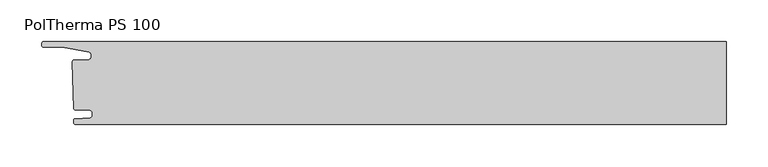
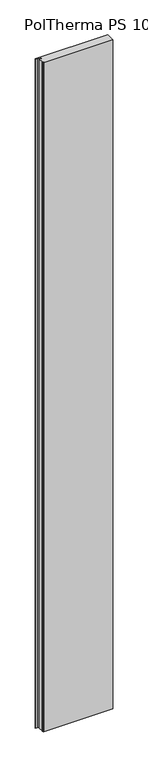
"""IFC4 building model written with IfcOpenShell, lengths in millimetres: plate geometry, Europanels_Poltherma PS_Vt : PolTherma PS 100."""

import ifcopenshell
import ifcopenshell.guid

model = None  # the IFC model being written
_history = None  # IfcOwnerHistory: only IFC2X3 demands one
_inside = {}  # id of a spatial element -> (the spatial element, [elements in it])
_under = {}  # id of a project, library or spatial element -> (it, [spatial elements below it])
_declared = {}  # id of a project -> (the project, [libraries it declares])
_typed = {}  # id of a type object -> (the type object, [elements of that type])
_made_of = {}  # id of a material, layer set ... -> (it, [elements and type objects made of it])


def new_model(schema):
    """Start an empty IFC model of exactly this schema.

    Asked for "IFC4X3", IfcOpenShell would pick the latest addendum, in which some entities
    have other attributes; the version numbers below select the first issue.
    IFC2X3 requires an IfcOwnerHistory on every rooted entity: one is made here for all.
    """
    global model, _history
    if schema == "IFC4X3":
        model = ifcopenshell.file(schema_version=(4, 3, 0, 0))
    else:
        model = ifcopenshell.file(schema=schema)
    _inside.clear()
    _under.clear()
    _declared.clear()
    _typed.clear()
    _made_of.clear()
    _history = None
    if model.schema == "IFC2X3":
        org = make("IfcOrganization", Name="unknown")
        user = make(
            "IfcPersonAndOrganization",
            ThePerson=make("IfcPerson", FamilyName="unknown"),
            TheOrganization=org,
        )
        app = make(
            "IfcApplication",
            ApplicationDeveloper=org,
            Version="unknown",
            ApplicationFullName="unknown",
            ApplicationIdentifier="unknown",
        )
        _history = make(
            "IfcOwnerHistory",
            OwningUser=user,
            OwningApplication=app,
            ChangeAction="ADDED",
            CreationDate=0,
        )
    return model


def make(cls, **values):
    """One entity of the class cls with the attributes given. An attribute that is None is left unset."""
    return model.create_entity(
        cls, **{name: value for name, value in values.items() if value is not None}
    )


def rooted(cls, **values):
    """An entity with a GlobalId (a new one), such as an element, a storey or a relation."""
    return make(cls, GlobalId=ifcopenshell.guid.new(), OwnerHistory=_history, **values)


def si_unit(unit_type, name, prefix=None):
    """IfcSIUnit, for example si_unit("LENGTHUNIT", "METRE", prefix="MILLI")."""
    return make("IfcSIUnit", UnitType=unit_type, Prefix=prefix, Name=name)


def assignment(units):
    """IfcUnitAssignment: the units of a project."""
    return None if units is None else make("IfcUnitAssignment", Units=units)


def point(xyz):
    """IfcCartesianPoint."""
    return None if xyz is None else make("IfcCartesianPoint", Coordinates=xyz)


def direction(xyz):
    """IfcDirection."""
    return None if xyz is None else make("IfcDirection", DirectionRatios=xyz)


def frame(location, z_axis=None, x_axis=None):
    """IfcAxis2Placement3D, a coordinate frame: its origin and axes. An axis left out is left unset."""
    return make(
        "IfcAxis2Placement3D",
        Location=point(location),
        Axis=direction(z_axis),
        RefDirection=direction(x_axis),
    )


def origin():
    """The frame at (0, 0, 0) with its axes left unset."""
    return frame((0.0, 0.0, 0.0))


def place(relative_to, where):
    """IfcLocalPlacement: puts the frame where relative to a parent placement (None: the world)."""
    return make(
        "IfcLocalPlacement", PlacementRelTo=relative_to, RelativePlacement=where
    )


def context(
    kind, dimensions, precision=None, world=None, true_north=None, identifier=None
):
    """IfcGeometricRepresentationContext, for example the 3D "Model" context."""
    return make(
        "IfcGeometricRepresentationContext",
        ContextIdentifier=identifier,
        ContextType=kind,
        CoordinateSpaceDimension=dimensions,
        Precision=precision,
        WorldCoordinateSystem=world,
        TrueNorth=true_north,
    )


def project(units=None, contexts=None):
    """IfcProject with its units and contexts."""
    return rooted(
        "IfcProject",
        Name="project",
        RepresentationContexts=contexts,
        UnitsInContext=assignment(units),
    )


def spatial(cls, under=None, at=None, **own):
    """A site, building, storey or space (cls), placed at a placement, below another one or the project."""
    s = rooted(cls, ObjectPlacement=at, **own)
    if under is not None:
        _under.setdefault(under.id(), (under, []))[1].append(s)
    return s


def polyline(points):
    """IfcPolyline through the points."""
    return make("IfcPolyline", Points=[point(p) for p in points])


def circle_curve(where, radius):
    """IfcCircle in the frame where."""
    return make("IfcCircle", Position=where, Radius=radius)


def shape(context_of_items, identifier, shape_type, items):
    """IfcShapeRepresentation: the items that make up one representation, for example the "Body"."""
    return make(
        "IfcShapeRepresentation",
        ContextOfItems=context_of_items,
        RepresentationIdentifier=identifier,
        RepresentationType=shape_type,
        Items=items,
    )


def source(mapping_origin, context_of_items, identifier, shape_type, items):
    """IfcRepresentationMap: a shape defined once, which mapped items show again and again."""
    return make(
        "IfcRepresentationMap",
        MappingOrigin=mapping_origin,
        MappedRepresentation=shape(context_of_items, identifier, shape_type, items),
    )


def transform(
    local_origin,
    x_axis=None,
    y_axis=None,
    z_axis=None,
    scale=None,
    scale2=None,
    scale3=None,
    uniform=True,
):
    """IfcCartesianTransformationOperator3D, or its non-uniform kind. x_axis, y_axis, z_axis: its Axis1, 2, 3."""
    if uniform:
        return make(
            "IfcCartesianTransformationOperator3D",
            Axis1=direction(x_axis),
            Axis2=direction(y_axis),
            LocalOrigin=point(local_origin),
            Scale=scale,
            Axis3=direction(z_axis),
        )
    return make(
        "IfcCartesianTransformationOperator3DnonUniform",
        Axis1=direction(x_axis),
        Axis2=direction(y_axis),
        LocalOrigin=point(local_origin),
        Scale=scale,
        Axis3=direction(z_axis),
        Scale2=scale2,
        Scale3=scale3,
    )


def mapped(mapping_source, mapping_target):
    """IfcMappedItem: shows the shape of a source again, moved by a transform."""
    return make(
        "IfcMappedItem", MappingSource=mapping_source, MappingTarget=mapping_target
    )


def made_of(thing, what):
    """Note that an element or type object is made of a material, layer set ...; save() writes the relation."""
    if what is not None:
        _made_of.setdefault(what.id(), (what, []))[1].append(thing)
    return thing


def element(
    cls,
    number,
    at=None,
    inside=None,
    cuts=None,
    type_object=None,
    material=None,
    context=None,
    identifier="Body",
    shape_type=None,
    held_by="IfcProductDefinitionShape",
    body=None,
    shapes=None,
    **own,
):
    """One element of the class cls, such as IfcWall. Its Tag is "e" and its number.

    at: its placement. inside: the storey or other place that contains it. cuts: it is an
    opening in that element (IfcRelVoidsElement). A single representation is given by context,
    identifier, shape_type and body (its items); several are given by shapes. held_by: the class
    of the entity that holds the representations. save() writes the other relations.
    """
    e = rooted(cls, Tag="e%d" % number, ObjectPlacement=at, **own)
    if body is not None:
        shapes = [shape(context, identifier, shape_type, body)]
    if shapes is not None:
        e.Representation = make(held_by, Representations=shapes)
    if inside is not None:
        _inside.setdefault(inside.id(), (inside, []))[1].append(e)
    if cuts is not None:
        rooted(
            "IfcRelVoidsElement", RelatingBuildingElement=cuts, RelatedOpeningElement=e
        )
    if type_object is not None:
        _typed.setdefault(type_object.id(), (type_object, []))[1].append(e)
    return made_of(e, material)


def aggregate(whole, parts):
    """IfcRelAggregates: a whole, such as a stair, and the parts it consists of."""
    return rooted("IfcRelAggregates", RelatingObject=whole, RelatedObjects=parts)


def save(model, path):
    """Write the relations noted so far, then the file.

    IfcRelAggregates (storeys below a building ...), IfcRelContainedInSpatialStructure (elements
    in a storey), IfcRelDefinesByType, IfcRelAssociatesMaterial and IfcRelDeclares: one each for
    every whole, place, type object, material and project.
    """
    for whole, parts in _under.values():
        aggregate(whole, parts)
    for where, things in _inside.values():
        rooted(
            "IfcRelContainedInSpatialStructure",
            RelatedElements=things,
            RelatingStructure=where,
        )
    for kind, things in _typed.values():
        rooted("IfcRelDefinesByType", RelatedObjects=things, RelatingType=kind)
    for what, things in _made_of.values():
        rooted("IfcRelAssociatesMaterial", RelatedObjects=things, RelatingMaterial=what)
    for by, libraries in _declared.values():
        rooted("IfcRelDeclares", RelatingContext=by, RelatedDefinitions=libraries)
    model.write(path)


def plane_surface(at):
    """IfcPlane: the flat surface through the origin of the frame at, square to its z axis."""
    return make("IfcPlane", Position=at)


def cylinder_surface(at, radius):
    """IfcCylindricalSurface: all points at the distance radius from the z axis of the frame at."""
    return make("IfcCylindricalSurface", Position=at, Radius=radius)


def revolved_surface(curve, axis_point, axis_direction):
    """IfcSurfaceOfRevolution: the curve turned about the line through axis_point along axis_direction."""
    return make(
        "IfcSurfaceOfRevolution",
        SweptCurve=make("IfcArbitraryOpenProfileDef", ProfileType="CURVE", Curve=curve),
        AxisPosition=make("IfcAxis1Placement", Location=point(axis_point), Axis=direction(axis_direction)),
    )


def advanced_brep(points, edges, surfaces, faces):
    """IfcAdvancedBrep: a solid bounded by faces that lie on surfaces and meet in shared edges.

    An edge is (start, end): straight between two places in points (the first is 0);
    or (start, end, curve); or (start, end, curve, False) where it runs against its curve.
    A face is (place in surfaces, loops), or (place, loops, False) where it looks against
    its surface's normal. A loop lists edges by number (the first is 1), with a minus sign
    where the edge is run from its end to its start. The first loop is the outer one.
    """
    corners = [point(p) for p in points]
    vertices = [make("IfcVertexPoint", VertexGeometry=c) for c in corners]
    made = []
    for start, end, *more in edges:
        made.append(
            make(
                "IfcEdgeCurve",
                EdgeStart=vertices[start],
                EdgeEnd=vertices[end],
                EdgeGeometry=more[0] if more else make("IfcPolyline", Points=[corners[start], corners[end]]),
                SameSense=more[1] if len(more) > 1 else True,
            )
        )
    hull = []
    for where, loops, *sense in faces:
        bounds = []
        for j, loop in enumerate(loops):
            ring = [make("IfcOrientedEdge", EdgeElement=made[abs(k) - 1], Orientation=k > 0) for k in loop]
            bounds.append(
                make(
                    "IfcFaceOuterBound" if j == 0 else "IfcFaceBound",
                    Bound=make("IfcEdgeLoop", EdgeList=ring),
                    Orientation=True,
                )
            )
        hull.append(make("IfcAdvancedFace", Bounds=bounds, FaceSurface=surfaces[where], SameSense=sense[0] if sense else True))
    return make("IfcAdvancedBrep", Outer=make("IfcClosedShell", CfsFaces=hull))


def poltherma_ps_100_62ddb752(model_context):
    return source(origin(), model_context, "Body", "AdvancedBrep", [
        advanced_brep(
        [(412.5, 50.0, 8000.0), (-408.8088808, 50.0, 8000.0), (-410.92762, 48.2152999, 8000.0), (-411.3414131, 45.8152999, 8000.0), (-409.2226739, 43.3, 8000.0), (-386.5443331, 43.3, 8000.0), (-353.9076538, 36.9690493, 8000.0), (-351.7623009, 34.3675437, 8000.0), (-351.7623009, 30.9832499, 8000.0), (-354.2261335, 28.3397973, 8000.0), (-372.0026646, 27.6798185, 8000.0), (-374.2654776, 25.3314364, 8000.0), (-372.7654776, -30.5974015, 8000.0), (-371.2018688, -32.337447, 8000.0), (-352.9427732, -33.3900718, 8000.0), (-350.2623009, -36.3730069, 8000.0), (-350.2623009, -39.3216758, 8000.0), (-352.9565739, -42.306057, 8000.0), (-370.9692956, -43.2805625, 8000.0), (-372.7654776, -45.27015, 8000.0), (-372.7654776, -47.9973085, 8000.0), (-370.7654776, -49.9973085, 8000.0), (412.5, -50.0, 8000.0), (412.5, 50.0, 0.0), (412.5, -50.0, 0.0), (-370.7654776, -50.0, 0.0), (-372.7654776, -47.9973085, 0.0), (-372.7654776, -45.27015, 0.0), (-370.9692956, -43.2805625, 0.0), (-352.9565739, -42.306057, 0.0), (-350.2623009, -39.3216758, 0.0), (-350.2623009, -36.3730069, 0.0), (-352.9427732, -33.3900718, 0.0), (-371.2018688, -32.337447, 0.0), (-372.7654776, -30.5974015, 0.0), (-374.2654776, 25.3314364, 0.0), (-372.0026646, 27.6798185, 0.0), (-354.2261335, 28.3397973, 0.0), (-351.7623009, 30.9832499, 0.0), (-351.7623009, 34.3675437, 0.0), (-353.9076538, 36.9690493, 0.0), (-386.5443331, 43.3, 0.0), (-409.2226739, 43.3, 0.0), (-411.3414131, 45.8152999, 0.0), (-410.92762, 48.2152999, 0.0), (-408.8088808, 50.0, 0.0)],
        [
            (0, 1),
            (1, 2, circle_curve(frame((-408.8088808, 47.85, 8000.0), z_axis=(0.0, 0.0, 1.0), x_axis=(1.0, 0.0, 0.0)), 2.15)),
            (2, 3),
            (3, 4, circle_curve(frame((-409.2226739, 45.45, 8000.0), z_axis=(0.0, 0.0, 1.0), x_axis=(1.0, 0.0, 0.0)), 2.15)),
            (4, 5),
            (5, 6),
            (6, 7, circle_curve(frame((-354.4123009, 34.3675437, 8000.0), z_axis=(0.0, 0.0, -1.0), x_axis=(1.0, 0.0, 0.0)), 2.65)),
            (7, 8),
            (8, 9, circle_curve(frame((-354.4123009, 30.9832499, 8000.0), z_axis=(0.0, 0.0, -1.0), x_axis=(1.0, 0.0, 0.0)), 2.65)),
            (9, 10),
            (10, 11, circle_curve(frame((-371.9154776, 25.3314364, 8000.0), z_axis=(0.0, 0.0, 1.0), x_axis=(1.0, 0.0, 0.0)), 2.35)),
            (11, 12),
            (12, 13, circle_curve(frame((-371.0154776, -30.5974015, 8000.0), z_axis=(0.0, 0.0, 1.0), x_axis=(1.0, 0.0, 0.0)), 1.75)),
            (13, 14),
            (14, 15, circle_curve(frame((-353.2623009, -36.3730069, 8000.0), z_axis=(0.0, 0.0, -1.0), x_axis=(1.0, 0.0, 0.0)), 3.0)),
            (15, 16),
            (16, 17, circle_curve(frame((-353.2623009, -39.3216758, 8000.0), z_axis=(0.0, 0.0, -1.0), x_axis=(1.0, 0.0, 0.0)), 3.0)),
            (17, 18),
            (18, 19, circle_curve(frame((-370.7654776, -45.27015, 8000.0), z_axis=(0.0, 0.0, 1.0), x_axis=(1.0, 0.0, 0.0)), 2.0)),
            (19, 20),
            (20, 21, circle_curve(frame((-370.7654776, -47.9973085, 8000.0), z_axis=(0.0, 0.0, 1.0), x_axis=(1.0, 0.0, 0.0)), 2.0)),
            (21, 22),
            (22, 0),
            (23, 24),
            (24, 25),
            (25, 26, circle_curve(frame((-370.7654776, -47.9973085, 0.0), z_axis=(0.0, 0.0, -1.0), x_axis=(1.0, 0.0, 0.0)), 2.0)),
            (26, 27),
            (27, 28, circle_curve(frame((-370.7654776, -45.27015, 0.0), z_axis=(0.0, 0.0, -1.0), x_axis=(1.0, 0.0, 0.0)), 2.0)),
            (28, 29),
            (29, 30, circle_curve(frame((-353.2623009, -39.3216758, 0.0), z_axis=(0.0, 0.0, 1.0), x_axis=(1.0, 0.0, 0.0)), 3.0)),
            (30, 31),
            (31, 32, circle_curve(frame((-353.2623009, -36.3730069, 0.0), z_axis=(0.0, 0.0, 1.0), x_axis=(1.0, 0.0, 0.0)), 3.0)),
            (32, 33),
            (33, 34, circle_curve(frame((-371.0154776, -30.5974015, 0.0), z_axis=(0.0, 0.0, -1.0), x_axis=(1.0, 0.0, 0.0)), 1.75)),
            (34, 35),
            (35, 36, circle_curve(frame((-371.9154776, 25.3314364, 0.0), z_axis=(0.0, 0.0, -1.0), x_axis=(1.0, 0.0, 0.0)), 2.35)),
            (36, 37),
            (37, 38, circle_curve(frame((-354.4123009, 30.9832499, 0.0), z_axis=(0.0, 0.0, 1.0), x_axis=(1.0, 0.0, 0.0)), 2.65)),
            (38, 39),
            (39, 40, circle_curve(frame((-354.4123009, 34.3675437, 0.0), z_axis=(0.0, 0.0, 1.0), x_axis=(1.0, 0.0, 0.0)), 2.65)),
            (40, 41),
            (41, 42),
            (42, 43, circle_curve(frame((-409.2226739, 45.45, 0.0), z_axis=(0.0, 0.0, -1.0), x_axis=(1.0, 0.0, 0.0)), 2.15)),
            (43, 44),
            (44, 45, circle_curve(frame((-408.8088808, 47.85, 0.0), z_axis=(0.0, 0.0, -1.0), x_axis=(1.0, 0.0, 0.0)), 2.15)),
            (45, 23),
            (0, 23),
            (45, 1),
            (21, 25),
            (24, 22),
            (44, 2),
            (43, 3),
            (42, 4),
            (41, 5),
            (40, 6),
            (39, 7),
            (38, 8),
            (37, 9),
            (36, 10),
            (35, 11),
            (34, 12),
            (33, 13),
            (32, 14),
            (31, 15),
            (30, 16),
            (29, 17),
            (28, 18),
            (27, 19),
            (26, 20),
        ],
        [
            plane_surface(frame((-408.8088808, 50.0, 8000.0), z_axis=(0.0, 0.0, 1.0), x_axis=(-1.0, 0.0, 0.0))),
            plane_surface(frame((-408.8088808, 50.0, 0.0), z_axis=(0.0, 0.0, -1.0), x_axis=(1.0, 0.0, 0.0))),
            plane_surface(frame((412.5, 50.0, 8000.0), z_axis=(0.0, 1.0, 0.0), x_axis=(0.0, 0.0, -1.0))),
            plane_surface(frame((-370.7654776, -50.0, 8000.0), z_axis=(0.0, -1.0, 0.0), x_axis=(0.0, 0.0, -1.0))),
            plane_surface(frame((412.5, -50.0, 8000.0), z_axis=(1.0, 0.0, 0.0), x_axis=(0.0, 0.0, -1.0))),
            cylinder_surface(frame((-408.8088808, 47.85, 0.0), z_axis=(0.0, 0.0, 1.0), x_axis=(1.0, 0.0, 0.0)), 2.15),
            plane_surface(frame((-410.92762, 48.2152999, 8000.0), z_axis=(-0.985460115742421, 0.1699069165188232, 0.0), x_axis=(0.0, 0.0, -1.0))),
            cylinder_surface(frame((-409.2226739, 45.45, 0.0), z_axis=(0.0, 0.0, 1.0), x_axis=(1.0, 0.0, 0.0)), 2.15),
            plane_surface(frame((-409.2226739, 43.3, 8000.0), z_axis=(0.0, -1.0, 0.0), x_axis=(0.0, 0.0, -1.0))),
            plane_surface(frame((-386.5443331, 43.3, 8000.0), z_axis=(-0.19043284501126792, -0.9817002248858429, 0.0), x_axis=(0.0, 0.0, -1.0))),
            revolved_surface(polyline([(-351.7623009, 34.3675437, 0.0), (-351.7623009, 34.3675437, 8000.0)]), (-354.4123009, 34.3675437, 0.0), (0.0, 0.0, -1.0)),
            plane_surface(frame((-351.7623009, 34.3675437, 8000.0), z_axis=(-1.0, -1.6518369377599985e-11, 0.0), x_axis=(0.0, 0.0, -1.0))),
            revolved_surface(polyline([(-351.7623009, 30.9832499, 0.0), (-351.7623009, 30.9832499, 8000.0)]), (-354.4123009, 30.9832499, 0.0), (0.0, 0.0, -1.0)),
            plane_surface(frame((-354.2261335, 28.3397973, 8000.0), z_axis=(-0.037100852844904, 0.9993115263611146, 0.0), x_axis=(0.0, 0.0, -1.0))),
            cylinder_surface(frame((-371.9154776, 25.3314364, 0.0), z_axis=(0.0, 0.0, 1.0), x_axis=(1.0, 0.0, 0.0)), 2.35),
            plane_surface(frame((-374.2654776, 25.3314364, 8000.0), z_axis=(-0.9996405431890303, -0.02681015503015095, 0.0), x_axis=(0.0, 0.0, -1.0))),
            cylinder_surface(frame((-371.0154776, -30.5974015, 0.0), z_axis=(0.0, 0.0, 1.0), x_axis=(1.0, 0.0, 0.0)), 1.75),
            plane_surface(frame((-371.2018688, -32.337447, 8000.0), z_axis=(-0.057553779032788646, -0.9983424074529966, 0.0), x_axis=(0.0, 0.0, -1.0))),
            revolved_surface(polyline([(-350.2623009, -36.3730069, 0.0), (-350.2623009, -36.3730069, 8000.0)]), (-353.2623009, -36.3730069, 0.0), (0.0, 0.0, -1.0)),
            plane_surface(frame((-350.2623009, -36.3730069, 8000.0), z_axis=(-1.0, 0.0, 0.0), x_axis=(0.0, 0.0, -1.0))),
            revolved_surface(polyline([(-350.2623009, -39.3216758, 0.0), (-350.2623009, -39.3216758, 8000.0)]), (-353.2623009, -39.3216758, 0.0), (0.0, 0.0, -1.0)),
            plane_surface(frame((-352.9565739, -42.306057, 8000.0), z_axis=(-0.05402195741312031, 0.9985397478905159, 0.0), x_axis=(0.0, 0.0, -1.0))),
            cylinder_surface(frame((-370.7654776, -45.27015, 0.0), z_axis=(0.0, 0.0, 1.0), x_axis=(1.0, 0.0, 0.0)), 2.0),
            plane_surface(frame((-372.7654776, -45.27015, 8000.0), z_axis=(-1.0, 0.0, 0.0), x_axis=(0.0, 0.0, -1.0))),
            cylinder_surface(frame((-370.7654776, -47.9973085, 0.0), z_axis=(0.0, 0.0, 1.0), x_axis=(1.0, 0.0, 0.0)), 2.0),
        ],
        [
            (0, [[1, 2, 3, 4, 5, 6, 7, 8, 9, 10, 11, 12, 13, 14, 15, 16, 17, 18, 19, 20, 21, 22, 23]]),
            (1, [[24, 25, 26, 27, 28, 29, 30, 31, 32, 33, 34, 35, 36, 37, 38, 39, 40, 41, 42, 43, 44, 45, 46]]),
            (2, [[-1, 47, -46, 48]]),
            (3, [[-22, 49, -25, 50]]),
            (4, [[-23, -50, -24, -47]]),
            (5, [[-2, -48, -45, 51]]),
            (6, [[-3, -51, -44, 52]]),
            (7, [[-4, -52, -43, 53]]),
            (8, [[-5, -53, -42, 54]]),
            (9, [[-6, -54, -41, 55]]),
            (10, [[-7, -55, -40, 56]]),
            (11, [[-8, -56, -39, 57]]),
            (12, [[-9, -57, -38, 58]]),
            (13, [[-10, -58, -37, 59]]),
            (14, [[-11, -59, -36, 60]]),
            (15, [[-12, -60, -35, 61]]),
            (16, [[-13, -61, -34, 62]]),
            (17, [[-14, -62, -33, 63]]),
            (18, [[-15, -63, -32, 64]]),
            (19, [[-16, -64, -31, 65]]),
            (20, [[-17, -65, -30, 66]]),
            (21, [[-18, -66, -29, 67]]),
            (22, [[-19, -67, -28, 68]]),
            (23, [[-20, -68, -27, 69]]),
            (24, [[-21, -69, -26, -49]]),
        ],
    ),
    ])


if __name__ == "__main__":
    model = new_model("IFC4")
    model_context = context("Model", 3, world=origin())
    ifc_project = project(units=[si_unit("LENGTHUNIT", "METRE", prefix="MILLI")], contexts=[model_context])
    site = spatial("IfcSite", under=ifc_project)
    building = spatial("IfcBuilding", under=site)
    placement = place(None, origin())
    poltherma_ps_100_shape = poltherma_ps_100_62ddb752(model_context)
    element("IfcPlate", 1, ObjectType="Europanels_Poltherma PS_Vt : PolTherma PS 100", at=placement, inside=building, context=model_context, shape_type="MappedRepresentation", body=[
        mapped(poltherma_ps_100_shape, transform((0.0, 0.0, 0.0), x_axis=(1.0, 0.0, 0.0), y_axis=(0.0, 1.0, 0.0), z_axis=(0.0, 0.0, 1.0))),
    ])
    save(model, "model.ifc")
